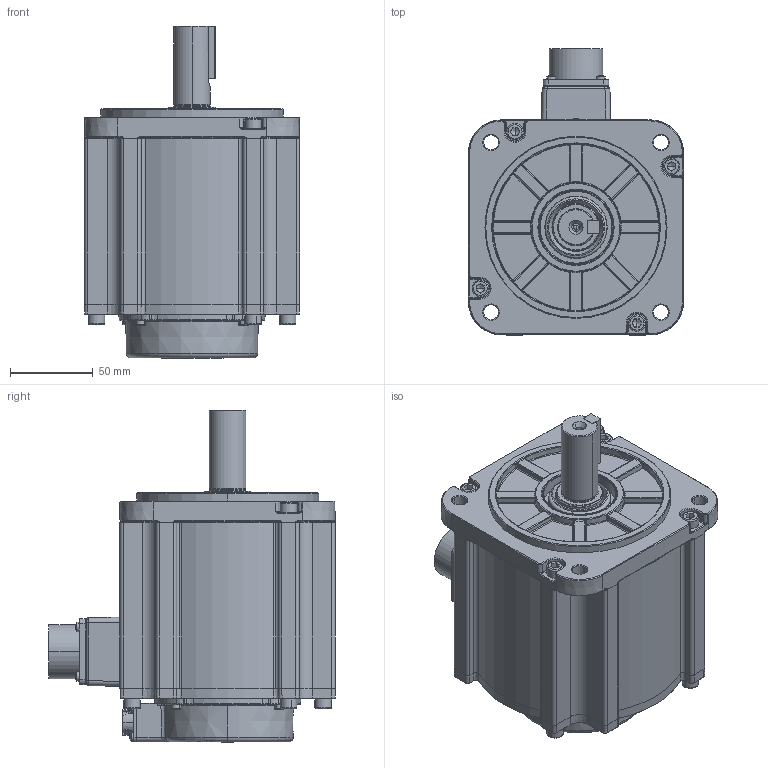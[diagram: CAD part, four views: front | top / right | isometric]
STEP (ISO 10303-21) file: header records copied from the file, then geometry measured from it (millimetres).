
FILE_DESCRIPTION (( 'STEP AP203' ), '1' );
FILE_NAME ('4031320-[][][][]_130µç»ú_DM1S-20A130[]8S_A0.STEP', '2020-06-08T11:37:54', ( '' ), ( '' ), 'SwSTEP 2.0', 'SolidWorks 2018', '' );
FILE_SCHEMA (( 'CONFIG_CONTROL_DESIGN' ));
Length unit declared in the file: millimetre
Products named in the file (1): 4031320-[][][][]_130萇儂_DM1S-20A130[]8S_A0
Bounding box: 130 x 173 x 200.5 mm (x, y, z)
Surface area: 141732.4 mm2 (no closed solid volume)
Topology: 0 solids, 52 shells, 1220 faces, 3686 edges, 2402 vertices
Faces by surface type: plane 397, cylinder 289, bspline 205, cone 162, torus 140, sphere 27
Entity records: 49594 total; most frequent: CARTESIAN_POINT 18595, DIRECTION 6380, ORIENTED_EDGE 6033, EDGE_CURVE 3634, AXIS2_PLACEMENT_3D 2436, VERTEX_POINT 2400, VECTOR 1508, LINE 1508
